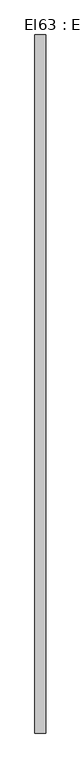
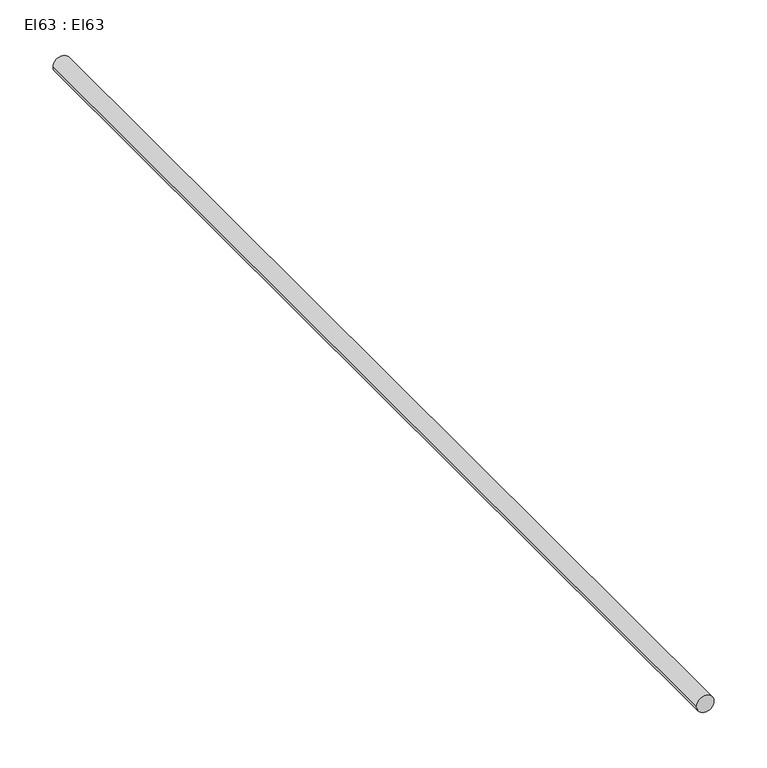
"""IFC4 building model written with IfcOpenShell, lengths in millimetres: cable carrier segment geometry, El63 : El63."""

from ifc_helpers import new_model, si_unit, point, frame, frame_2d, origin, place, context, project, spatial, circle_curve, trimmed, segment, composite_curve, outline, extrude, source, transform, mapped, element, save


def el63_el63_54c5e85c(model_context):
    return source(origin(), model_context, "Body", "SweptSolid", [
        extrude(outline(composite_curve([segment(trimmed(circle_curve(frame_2d((1200.0, 12950.0)), 9.5), [point((1200.0, 12940.5))], [point((1200.0, 12959.5))], False, "CARTESIAN"), True, "CONTINUOUS"), segment(trimmed(circle_curve(frame_2d((1200.0, 12950.0)), 9.5), [point((1200.0, 12959.5))], [point((1200.0, 12940.5))], False, "CARTESIAN"), True, "CONTINUOUS")], self_intersect=False)), frame((0.0, 16788.847, 0.0), z_axis=(0.0, 1.0, 0.0), x_axis=(0.0, 0.0, 1.0)), (0.0, 0.0, 1.0), 1214.11),
    ])


if __name__ == "__main__":
    model = new_model("IFC4")
    model_context = context("Model", 3, world=origin())
    ifc_project = project(units=[si_unit("LENGTHUNIT", "METRE", prefix="MILLI")], contexts=[model_context])
    site = spatial("IfcSite", under=ifc_project)
    building = spatial("IfcBuilding", under=site)
    placement = place(None, origin())
    el63_el63_shape = el63_el63_54c5e85c(model_context)
    element("IfcCableCarrierSegment", 1, ObjectType="El63 : El63", at=placement, inside=building, context=model_context, shape_type="MappedRepresentation", body=[
        mapped(el63_el63_shape, transform((0.0, 0.0, 0.0), x_axis=(1.0, 0.0, 0.0), y_axis=(0.0, 1.0, 0.0), z_axis=(0.0, 0.0, 1.0))),
    ])
    save(model, "model.ifc")
